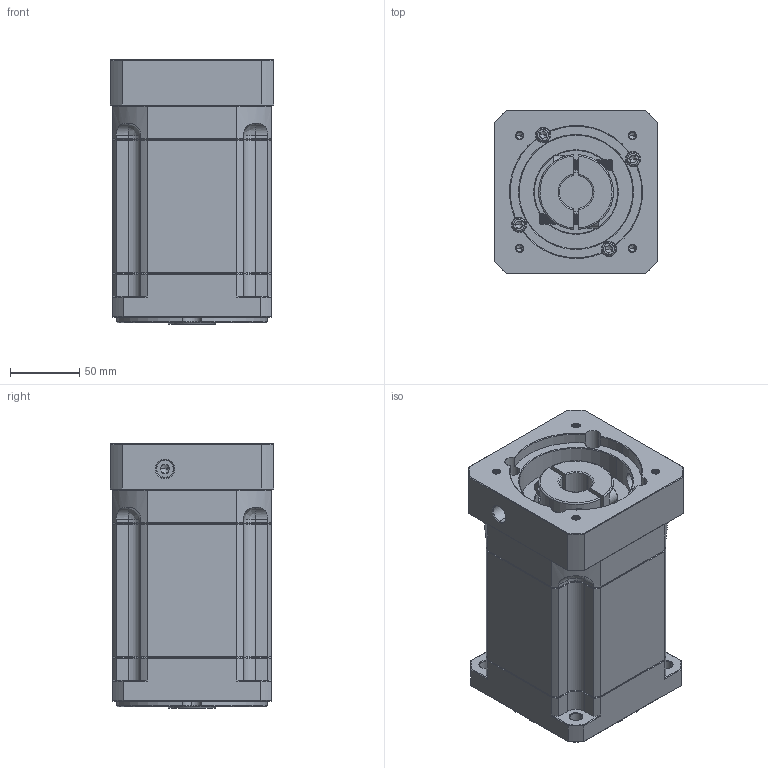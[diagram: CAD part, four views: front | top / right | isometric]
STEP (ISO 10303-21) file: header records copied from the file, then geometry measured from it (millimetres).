
FILE_DESCRIPTION (( 'STEP AP214' ), '1' );
FILE_NAME ('ZB115A-K25-L3-24-95-115-M6.step', '2023-03-02T09:06:24', ( '' ), ( 'Microsoft' ), 'SwSTEP 2.0', 'SolidWorks 2016', '' );
FILE_SCHEMA (( 'AUTOMOTIVE_DESIGN' ));
Length unit declared in the file: millimetre
Products named in the file (1): ZB115A-K25-L3-24-95-115-M6
Bounding box: 118 x 118 x 190.5 mm (x, y, z)
Volume: 2078557.6 mm3; surface area: 183313.7 mm2
Topology: 6 solids, 6 shells, 2065 faces, 5341 edges, 3367 vertices
Faces by surface type: plane 957, cylinder 407, cone 365, bspline 316, torus 20
Entity records: 107498 total; most frequent: CARTESIAN_POINT 37020, ORIENTED_EDGE 10618, DIRECTION 8791, EDGE_CURVE 5309, VERTEX_POINT 3367, LINE 3317, VECTOR 3317, AXIS2_PLACEMENT_3D 2737
